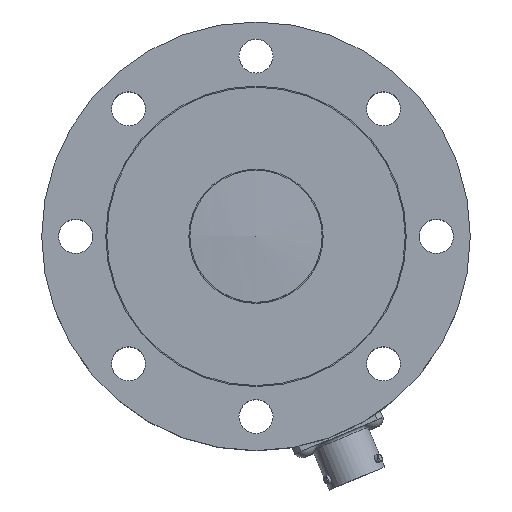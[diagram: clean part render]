
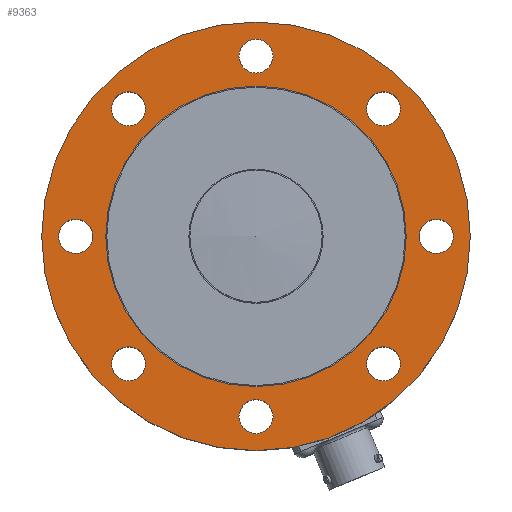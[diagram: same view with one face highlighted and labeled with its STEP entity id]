
A CAD part, top view. The second image highlights one B-rep face of the part: STEP entity #9363.
In plain terms, the highlighted planar face has unit normal (0, 0, 1).
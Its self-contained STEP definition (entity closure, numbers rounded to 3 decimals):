
#689=FACE_BOUND('',#1641,.T.);
#690=FACE_BOUND('',#1642,.T.);
#691=FACE_BOUND('',#1643,.T.);
#692=FACE_BOUND('',#1644,.T.);
#693=FACE_BOUND('',#1645,.T.);
#694=FACE_BOUND('',#1646,.T.);
#695=FACE_BOUND('',#1647,.T.);
#696=FACE_BOUND('',#1648,.T.);
#697=FACE_BOUND('',#1649,.T.);
#810=PLANE('',#10014);
#1076=FACE_OUTER_BOUND('',#1640,.T.);
#1640=EDGE_LOOP('',(#6729));
#1641=EDGE_LOOP('',(#6730));
#1642=EDGE_LOOP('',(#6731));
#1643=EDGE_LOOP('',(#6732));
#1644=EDGE_LOOP('',(#6733));
#1645=EDGE_LOOP('',(#6734));
#1646=EDGE_LOOP('',(#6735));
#1647=EDGE_LOOP('',(#6736));
#1648=EDGE_LOOP('',(#6737));
#1649=EDGE_LOOP('',(#6738));
#2249=CIRCLE('',#9979,4.25);
#2269=CIRCLE('',#10013,53.5);
#2270=CIRCLE('',#10015,4.25);
#2271=CIRCLE('',#10016,4.25);
#2272=CIRCLE('',#10017,4.25);
#2273=CIRCLE('',#10018,4.25);
#2274=CIRCLE('',#10019,4.25);
#2275=CIRCLE('',#10020,4.25);
#2276=CIRCLE('',#10021,4.25);
#2277=CIRCLE('',#10022,37.5);
#4306=VERTEX_POINT('',#14658);
#4326=VERTEX_POINT('',#16627);
#4327=VERTEX_POINT('',#16631);
#4328=VERTEX_POINT('',#16633);
#4329=VERTEX_POINT('',#16635);
#4330=VERTEX_POINT('',#16637);
#4331=VERTEX_POINT('',#16639);
#4332=VERTEX_POINT('',#16641);
#4333=VERTEX_POINT('',#16643);
#4334=VERTEX_POINT('',#16645);
#5223=EDGE_CURVE('',#4306,#4306,#2249,.T.);
#5257=EDGE_CURVE('',#4326,#4326,#2269,.T.);
#5259=EDGE_CURVE('',#4327,#4327,#2270,.T.);
#5260=EDGE_CURVE('',#4328,#4328,#2271,.T.);
#5261=EDGE_CURVE('',#4329,#4329,#2272,.T.);
#5262=EDGE_CURVE('',#4330,#4330,#2273,.T.);
#5263=EDGE_CURVE('',#4331,#4331,#2274,.T.);
#5264=EDGE_CURVE('',#4332,#4332,#2275,.T.);
#5265=EDGE_CURVE('',#4333,#4333,#2276,.T.);
#5266=EDGE_CURVE('',#4334,#4334,#2277,.T.);
#6729=ORIENTED_EDGE('',*,*,#5257,.T.);
#6730=ORIENTED_EDGE('',*,*,#5259,.T.);
#6731=ORIENTED_EDGE('',*,*,#5260,.T.);
#6732=ORIENTED_EDGE('',*,*,#5261,.T.);
#6733=ORIENTED_EDGE('',*,*,#5262,.T.);
#6734=ORIENTED_EDGE('',*,*,#5263,.T.);
#6735=ORIENTED_EDGE('',*,*,#5264,.T.);
#6736=ORIENTED_EDGE('',*,*,#5265,.T.);
#6737=ORIENTED_EDGE('',*,*,#5223,.T.);
#6738=ORIENTED_EDGE('',*,*,#5266,.F.);
#9363=ADVANCED_FACE('',(#1076,#689,#690,#691,#692,#693,#694,#695,#696,#697),
#810,.T.);
#9979=AXIS2_PLACEMENT_3D('',#14659,#10931,#10932);
#10013=AXIS2_PLACEMENT_3D('',#16628,#11005,#11006);
#10014=AXIS2_PLACEMENT_3D('',#16630,#11008,#11009);
#10015=AXIS2_PLACEMENT_3D('',#16632,#11010,#11011);
#10016=AXIS2_PLACEMENT_3D('',#16634,#11012,#11013);
#10017=AXIS2_PLACEMENT_3D('',#16636,#11014,#11015);
#10018=AXIS2_PLACEMENT_3D('',#16638,#11016,#11017);
#10019=AXIS2_PLACEMENT_3D('',#16640,#11018,#11019);
#10020=AXIS2_PLACEMENT_3D('',#16642,#11020,#11021);
#10021=AXIS2_PLACEMENT_3D('',#16644,#11022,#11023);
#10022=AXIS2_PLACEMENT_3D('',#16646,#11024,#11025);
#10931=DIRECTION('center_axis',(0.,0.,-1.));
#10932=DIRECTION('ref_axis',(-1.,0.,0.));
#11005=DIRECTION('center_axis',(0.,0.,1.));
#11006=DIRECTION('ref_axis',(1.,0.,0.));
#11008=DIRECTION('center_axis',(0.,0.,1.));
#11009=DIRECTION('ref_axis',(1.,0.,0.));
#11010=DIRECTION('center_axis',(0.,0.,
-1.));
#11011=DIRECTION('ref_axis',(-0.707,0.707,0.));
#11012=DIRECTION('center_axis',(0.,0.,
-1.));
#11013=DIRECTION('ref_axis',(0.,1.,0.));
#11014=DIRECTION('center_axis',(0.,0.,
-1.));
#11015=DIRECTION('ref_axis',(0.707,0.707,0.));
#11016=DIRECTION('center_axis',(0.,0.,
-1.));
#11017=DIRECTION('ref_axis',(1.,0.,0.));
#11018=DIRECTION('center_axis',(0.,0.,
-1.));
#11019=DIRECTION('ref_axis',(0.707,-0.707,0.));
#11020=DIRECTION('center_axis',(0.,0.,
-1.));
#11021=DIRECTION('ref_axis',(0.,-1.,0.));
#11022=DIRECTION('center_axis',(0.,0.,
-1.));
#11023=DIRECTION('ref_axis',(-0.707,-0.707,0.));
#11024=DIRECTION('center_axis',(0.,0.,1.));
#11025=DIRECTION('ref_axis',(1.,0.,0.));
#14658=CARTESIAN_POINT('',(49.25,0.,31.));
#14659=CARTESIAN_POINT('Origin',(45.,0.,31.));
#16627=CARTESIAN_POINT('',(-53.5,0.,31.));
#16628=CARTESIAN_POINT('Origin',(0.,0.,31.));
#16630=CARTESIAN_POINT('Origin',(37.5,0.,31.));
#16631=CARTESIAN_POINT('',(34.825,-34.825,31.));
#16632=CARTESIAN_POINT('Origin',(31.82,-31.82,31.));
#16633=CARTESIAN_POINT('',(0.,-49.25,31.));
#16634=CARTESIAN_POINT('Origin',(0.,-45.,31.));
#16635=CARTESIAN_POINT('',(-34.825,-34.825,31.));
#16636=CARTESIAN_POINT('Origin',(-31.82,-31.82,31.));
#16637=CARTESIAN_POINT('',(-49.25,0.,31.));
#16638=CARTESIAN_POINT('Origin',(-45.,0.,31.));
#16639=CARTESIAN_POINT('',(-34.825,34.825,31.));
#16640=CARTESIAN_POINT('Origin',(-31.82,31.82,31.));
#16641=CARTESIAN_POINT('',(0.,49.25,31.));
#16642=CARTESIAN_POINT('Origin',(0.,45.,31.));
#16643=CARTESIAN_POINT('',(34.825,34.825,31.));
#16644=CARTESIAN_POINT('Origin',(31.82,31.82,31.));
#16645=CARTESIAN_POINT('',(-37.5,0.,31.));
#16646=CARTESIAN_POINT('Origin',(0.,0.,31.));
